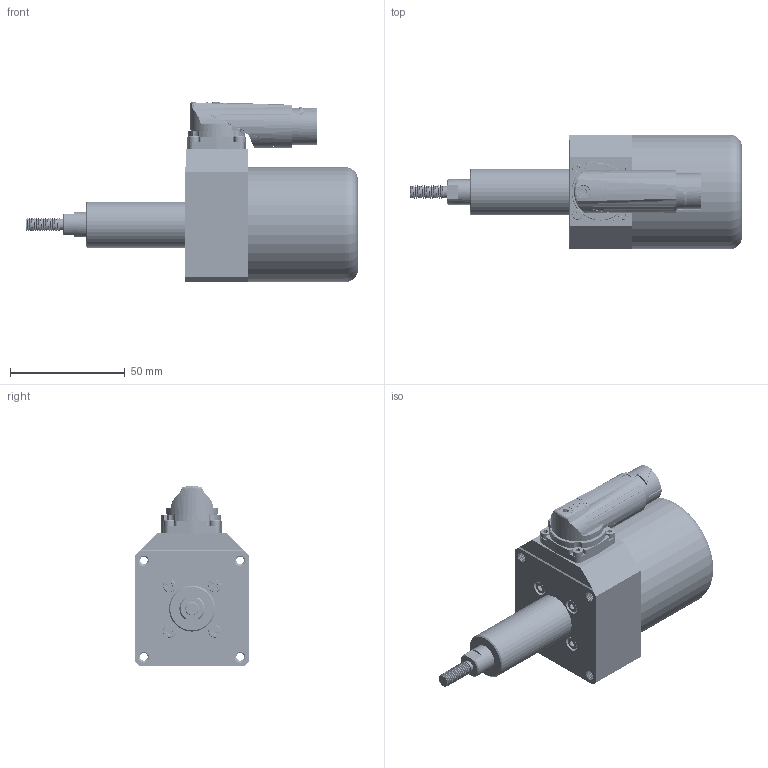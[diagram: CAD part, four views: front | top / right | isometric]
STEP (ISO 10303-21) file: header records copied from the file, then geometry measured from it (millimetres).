
FILE_DESCRIPTION(/* description */ (''),/* implementation_level */ '2;1');
FILE_NAME(/* name */ 'LE-BASE-50.XXX.085.XX.step',/* time_stamp */ '2024-05-15T18:19:26+02:00',/* author */ (''),/* organization */ (''),/* preprocessor_version */ 'ST-DEVELOPER v20',/* originating_system */ 'Autodesk Translation Framework v12.20.1.177',/* authorisation */ '');
FILE_SCHEMA (('AUTOMOTIVE_DESIGN { 1 0 10303 214 3 1 1 }'));
Length unit declared in the file: millimetre
Products named in the file (6): LE-BASE-50.XXX.085.XX; M15_Intercontec_EED_0600_12+3-polig, Stift; 131020; 118405-T-Flansch25x25; 91290A103_Black-Oxide Alloy Steel Socket Head Screw; 91290A123_Alloy Steel Socket Head Screw
Assembly tree (11 placements, depth 3):
  LE-BASE-50.XXX.085.XX
    M15_Intercontec_EED_0600_12+3-polig, Stift
      131020
      118405-T-Flansch25x25
    91290A103_Black-Oxide Alloy Steel Socket Head Screw  x4
    91290A123_Alloy Steel Socket Head Screw  x4
Bounding box: 144.7 x 50 x 78.42 mm (x, y, z)
Volume: 198337 mm3; surface area: 34921.9 mm2
Topology: 11 solids, 11 shells, 2985 faces, 7393 edges, 4876 vertices
Faces by surface type: plane 1783, cylinder 952, cone 132, bspline 80, torus 30, sphere 8
Full cylindrical faces by diameter (mm): 1 x15, 1.2 x3, 1.915 x80, 2.35 x152, 2.5 x80, 2.529 x4, 2.7 x4, 3 x152, 3.06 x1, 3.332 x32, 3.4 x4, 4 x1, 4.109 x10, 4.11 x10, 4.234 x24, 4.5 x4, 4.744 x6, 5 x1, 5.12 x20, 5.5 x5, 5.8 x1, 5.884 x11, 6.5 x4, 11 x1, 11.75 x1, 16.2 x1, 17.025 x1, 18.8 x1, 19.8 x1, 20 x1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
Entity records: 70661 total; most frequent: CARTESIAN_POINT 40087, ORIENTED_EDGE 6780, DIRECTION 5488, EDGE_CURVE 3390, VERTEX_POINT 2239, AXIS2_PLACEMENT_3D 1974, LINE 1540, VECTOR 1540
